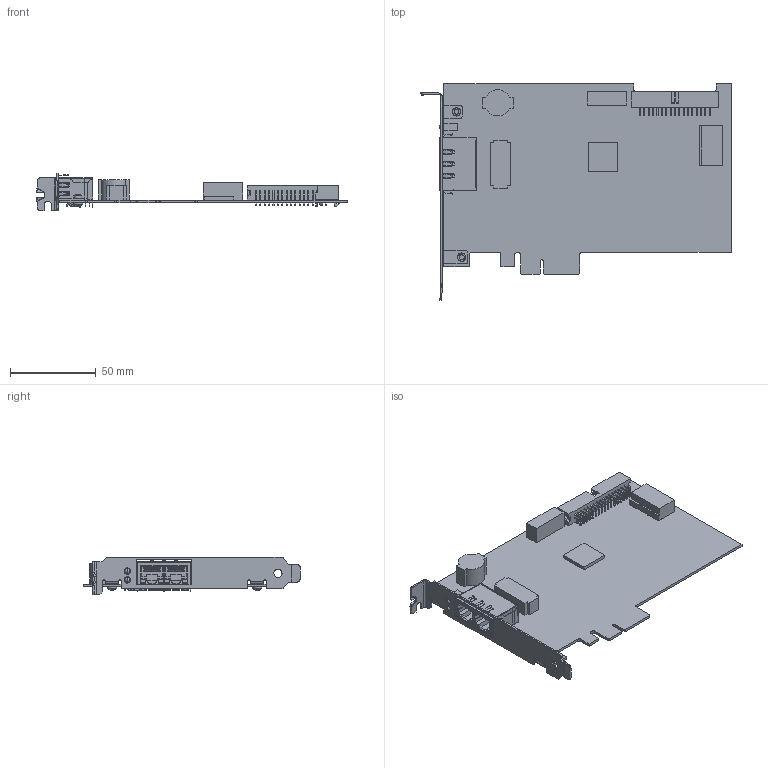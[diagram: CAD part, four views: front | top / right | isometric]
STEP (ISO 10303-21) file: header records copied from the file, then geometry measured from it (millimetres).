
FILE_DESCRIPTION((''),'2;1');
FILE_NAME('CU_PXIE_8236','2013-03-07T',('dkendric'),(''),'PRO/ENGINEER BY PARAMETRIC TECHNOLOGY CORPORATION, 2011490','PRO/ENGINEER BY PARAMETRIC TECHNOLOGY CORPORATION, 2011490','');
FILE_SCHEMA(('CONFIG_CONTROL_DESIGN'));
Products named in the file (1): CU_PXIE_8236
Bounding box: 180.92 x 126.32 x 21.59 mm (x, y, z)
Volume: 43527 mm3; surface area: 53499.5 mm2
Topology: 1 solids, 1 shells, 2007 faces, 5380 edges, 3414 vertices
Faces by surface type: plane 1555, cylinder 294, bspline 114, extrusion 14, cone 12, torus 10, sphere 8
Full cylindrical faces by diameter (mm): 2.286 x1
Entity records: 64679 total; most frequent: CARTESIAN_POINT 14805, ORIENTED_EDGE 10752, DIRECTION 9395, EDGE_CURVE 5376, VECTOR 4471, LINE 4457, VERTEX_POINT 3414, AXIS2_PLACEMENT_3D 2462
